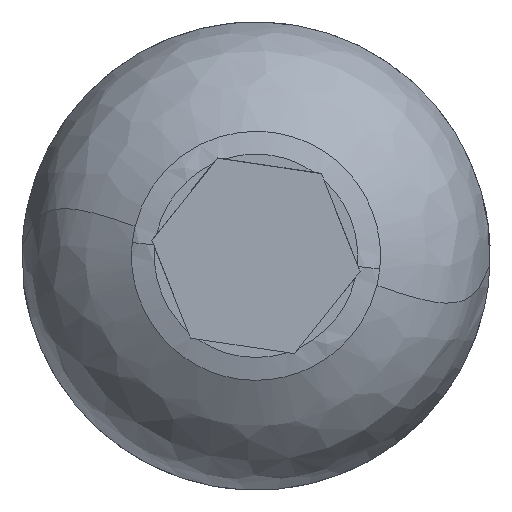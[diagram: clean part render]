
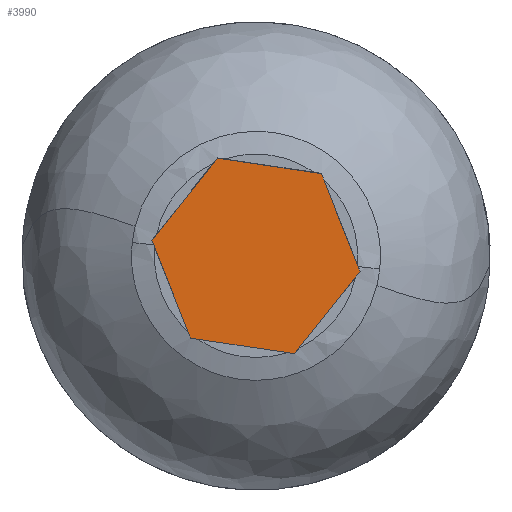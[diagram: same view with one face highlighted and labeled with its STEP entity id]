
A CAD part, top view. The second image highlights one B-rep face of the part: STEP entity #3990.
In plain terms, the highlighted planar face has unit normal (0, 0, 1).
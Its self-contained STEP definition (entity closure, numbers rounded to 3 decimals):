
#37 = VERTEX_POINT ( 'NONE', #1776 ) ;
#56 = CARTESIAN_POINT ( 'NONE',  ( 0.847, -2.148, 1. ) ) ;
#550 = DIRECTION ( 'NONE',  ( 0.622, 0.783, 0. ) ) ;
#615 = DIRECTION ( 'NONE',  ( -0.367, 0.93, 0. ) ) ;
#874 = ORIENTED_EDGE ( 'NONE', *, *, #4931, .T. ) ;
#916 = ORIENTED_EDGE ( 'NONE', *, *, #4578, .T. ) ;
#997 = VECTOR ( 'NONE', #550, 1000. ) ;
#1004 = EDGE_CURVE ( 'NONE', #4670, #3063, #2546, .T. ) ;
#1078 = CARTESIAN_POINT ( 'NONE',  ( 0.847, -2.148, 1. ) ) ;
#1142 = CARTESIAN_POINT ( 'NONE',  ( 2.284, -0.34, 1. ) ) ;
#1487 = DIRECTION ( 'NONE',  ( -0.622, -0.783, 0. ) ) ;
#1744 = DIRECTION ( 'NONE',  ( 0.367, -0.93, 0. ) ) ;
#1758 = ORIENTED_EDGE ( 'NONE', *, *, #1004, .T. ) ;
#1776 = CARTESIAN_POINT ( 'NONE',  ( 1.437, 1.808, 1. ) ) ;
#1780 = CARTESIAN_POINT ( 'NONE',  ( -1.437, -1.808, 1. ) ) ;
#1874 = DIRECTION ( 'NONE',  ( -0.989, 0.147, 0. ) ) ;
#2016 = CARTESIAN_POINT ( 'NONE',  ( -0.847, 2.148, 1. ) ) ;
#2068 = DIRECTION ( 'NONE',  ( 1., 0., 0. ) ) ;
#2279 = CARTESIAN_POINT ( 'NONE',  ( -2.284, 0.34, 1. ) ) ;
#2343 = CARTESIAN_POINT ( 'NONE',  ( 2.284, -0.34, 1. ) ) ;
#2403 = CARTESIAN_POINT ( 'NONE',  ( 1.437, 1.808, 1. ) ) ;
#2546 = LINE ( 'NONE', #2016, #3500 ) ;
#2605 = DIRECTION ( 'NONE',  ( 0., 0., 1. ) ) ;
#2660 = LINE ( 'NONE', #1078, #997 ) ;
#2672 = DIRECTION ( 'NONE',  ( 0.989, -0.147, 0. ) ) ;
#2688 = VERTEX_POINT ( 'NONE', #56 ) ;
#2930 = LINE ( 'NONE', #2403, #3669 ) ;
#3063 = VERTEX_POINT ( 'NONE', #3360 ) ;
#3092 = ORIENTED_EDGE ( 'NONE', *, *, #3244, .T. ) ;
#3131 = CARTESIAN_POINT ( 'NONE',  ( 0., 0., 1. ) ) ;
#3167 = ORIENTED_EDGE ( 'NONE', *, *, #4852, .T. ) ;
#3202 = CARTESIAN_POINT ( 'NONE',  ( -1.437, -1.808, 1. ) ) ;
#3244 = EDGE_CURVE ( 'NONE', #5071, #2688, #3739, .T. ) ;
#3257 = LINE ( 'NONE', #1142, #4149 ) ;
#3339 = LINE ( 'NONE', #2279, #4350 ) ;
#3360 = CARTESIAN_POINT ( 'NONE',  ( -2.284, 0.34, 1. ) ) ;
#3436 = CARTESIAN_POINT ( 'NONE',  ( -0.847, 2.148, 1. ) ) ;
#3500 = VECTOR ( 'NONE', #1487, 1000. ) ;
#3556 = ORIENTED_EDGE ( 'NONE', *, *, #3898, .T. ) ;
#3641 = EDGE_LOOP ( 'NONE', ( #916, #3556, #3167, #1758, #874, #3092 ) ) ;
#3667 = PLANE ( 'NONE',  #4414 ) ;
#3669 = VECTOR ( 'NONE', #1874, 1000. ) ;
#3739 = LINE ( 'NONE', #3202, #4753 ) ;
#3898 = EDGE_CURVE ( 'NONE', #4014, #37, #3257, .T. ) ;
#3990 = ADVANCED_FACE ( 'NONE', ( #4009 ), #3667, .T. ) ;
#4009 = FACE_OUTER_BOUND ( 'NONE', #3641, .T. ) ;
#4014 = VERTEX_POINT ( 'NONE', #2343 ) ;
#4149 = VECTOR ( 'NONE', #615, 1000. ) ;
#4350 = VECTOR ( 'NONE', #1744, 1000. ) ;
#4414 = AXIS2_PLACEMENT_3D ( 'NONE', #3131, #2605, #2068 ) ;
#4578 = EDGE_CURVE ( 'NONE', #2688, #4014, #2660, .T. ) ;
#4670 = VERTEX_POINT ( 'NONE', #3436 ) ;
#4753 = VECTOR ( 'NONE', #2672, 1000. ) ;
#4852 = EDGE_CURVE ( 'NONE', #37, #4670, #2930, .T. ) ;
#4931 = EDGE_CURVE ( 'NONE', #3063, #5071, #3339, .T. ) ;
#5071 = VERTEX_POINT ( 'NONE', #1780 ) ;
